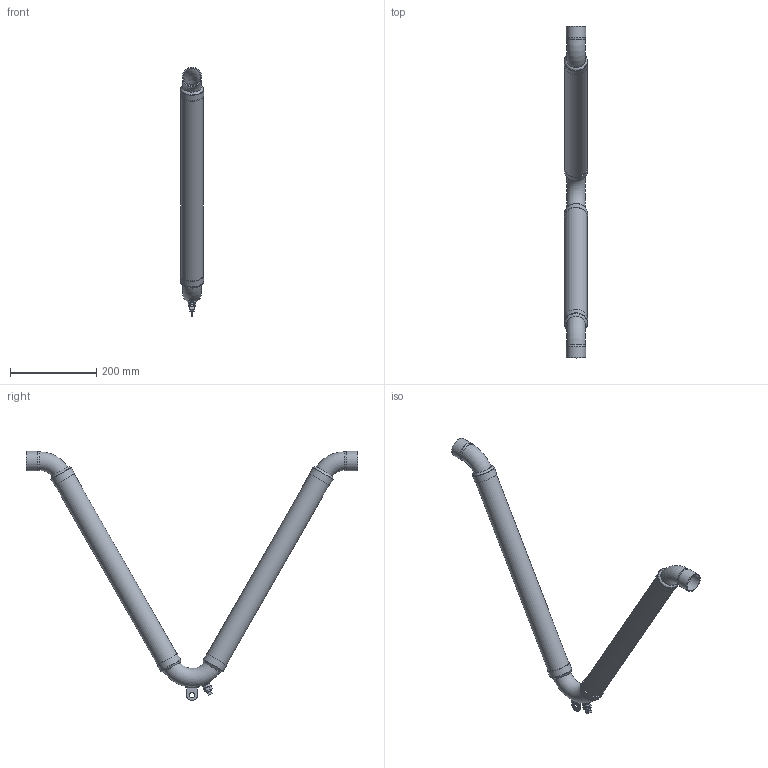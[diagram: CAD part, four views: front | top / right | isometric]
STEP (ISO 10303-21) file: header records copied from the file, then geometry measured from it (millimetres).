
FILE_DESCRIPTION((''),'2;1');
FILE_NAME('C:\REVIT SHARED FILES\STP\VCPSB\VCPSB-1_5.stp','2013-08-08T10:39:29',('rramoutar'),(''),'Autodesk Inventor 2012','Autodesk Inventor 2012','');
FILE_SCHEMA(('AUTOMOTIVE_DESIGN { 1 0 10303 214 1 1 1 1 }'));
Length unit declared in the file: inch
Products named in the file (9): A-31297-3 VCPSB 1.5 inch.iam (NO HOSE); A-31297-3 VCPSB 1.5 inch.iam (NO HOSE)_Welds; A-31128-3 VCPSB 1.5  inch 120 DEGREE ELBOW; A-31302 VCPS & VCPSB 0.5 inch TO 1.5 inch SUPPORT CLIP; A-31301-2 COPPER FEMALE ADAPTER 0.25 inch; A-31301-2 BRASS, CAST PLUG 0.25 inch; A-31120-3 VCPSB 1.5  inch 60 DEGREE ELBOW; A-31011 BRONZE HOSE BRAID COLLAR 1.5 inch; A-31297-3 VCPSB 1.5 inch PHOSPHOR BRONZE BRAID
Assembly tree (13 placements, depth 2):
  A-31297-3 VCPSB 1.5 inch.iam (NO HOSE)
    A-31297-3 VCPSB 1.5 inch.iam (NO HOSE)_Welds
    A-31128-3 VCPSB 1.5  inch 120 DEGREE ELBOW
    A-31302 VCPS & VCPSB 0.5 inch TO 1.5 inch SUPPORT CLIP
    A-31301-2 COPPER FEMALE ADAPTER 0.25 inch
    A-31301-2 BRASS, CAST PLUG 0.25 inch
    A-31120-3 VCPSB 1.5  inch 60 DEGREE ELBOW  x2
    A-31011 BRONZE HOSE BRAID COLLAR 1.5 inch  x4
    A-31297-3 VCPSB 1.5 inch PHOSPHOR BRONZE BRAID  x2
Bounding box: 53.95 x 769.94 x 578.21 mm (x, y, z)
Volume: 164266.6 mm3; surface area: 449575.2 mm2
Topology: 18 solids, 18 shells, 121 faces, 262 edges, 170 vertices
Faces by surface type: plane 62, cylinder 25, cone 13, torus 12, bspline 9
Full cylindrical faces by diameter (mm): 9.335 x1, 11.113 x3, 12.7 x1, 13.716 x2, 16.51 x1, 41.504 x2, 45.161 x2, 50.8 x6, 51.511 x2, 53.975 x4
Entity records: 6585 total; most frequent: CARTESIAN_POINT 4329, DIRECTION 400, ORIENTED_EDGE 360, EDGE_CURVE 180, AXIS2_PLACEMENT_3D 172, EDGE_LOOP 145, VERTEX_POINT 131, FACE_OUTER_BOUND 97
